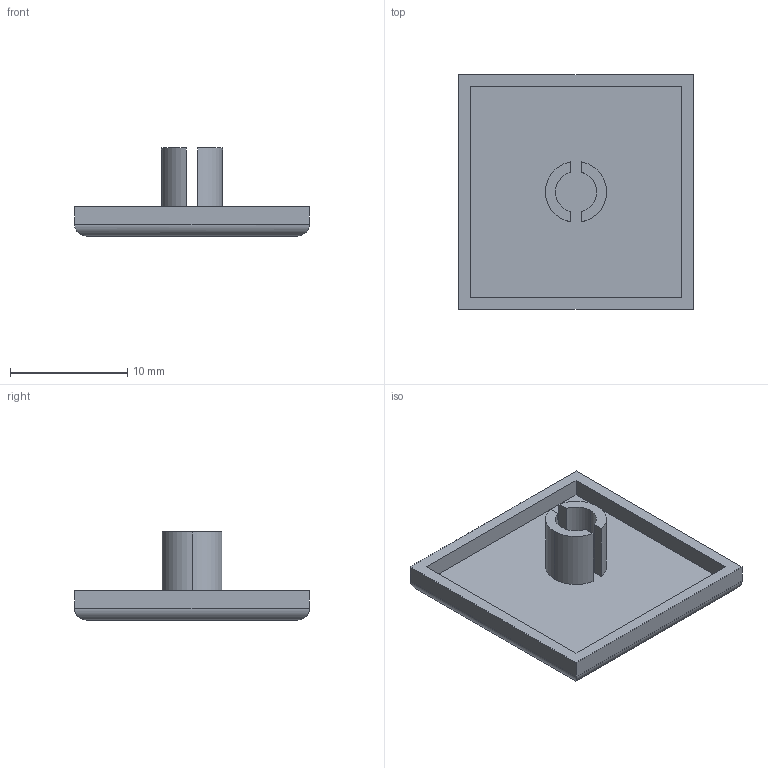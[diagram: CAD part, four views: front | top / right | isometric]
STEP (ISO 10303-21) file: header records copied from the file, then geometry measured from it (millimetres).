
FILE_DESCRIPTION (( 'STEP AP203' ), '1' );
FILE_NAME ('163-CE-CP-2020.STEP', '2015-07-09T09:11:17', ( '' ), ( '' ), 'SwSTEP 2.0', 'SolidWorks 2013', '' );
FILE_SCHEMA (( 'CONFIG_CONTROL_DESIGN' ));
Length unit declared in the file: millimetre
Products named in the file (1): 163-CE-CP-2020
Bounding box: 20 x 20 x 7.5 mm (x, y, z)
Volume: 546.7 mm3; surface area: 1226.8 mm2
Topology: 3 solids, 3 shells, 29 faces, 62 edges, 40 vertices
Faces by surface type: plane 19, cylinder 10
Entity records: 849 total; most frequent: CARTESIAN_POINT 144, DIRECTION 130, ORIENTED_EDGE 124, EDGE_CURVE 62, VECTOR 46, LINE 46, AXIS2_PLACEMENT_3D 42, VERTEX_POINT 40
